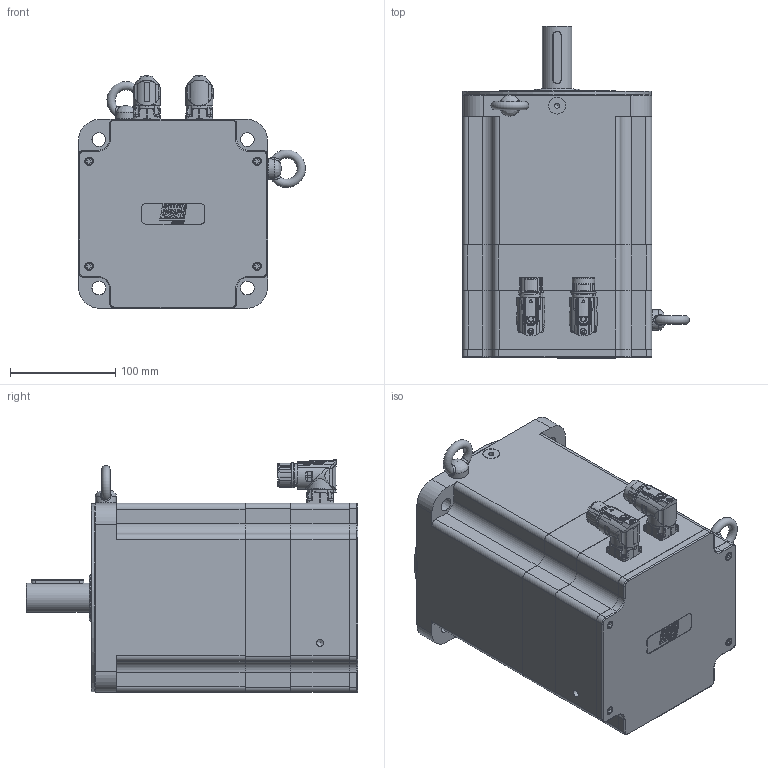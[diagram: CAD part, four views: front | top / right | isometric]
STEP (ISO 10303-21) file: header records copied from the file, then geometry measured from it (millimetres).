
FILE_DESCRIPTION(/* description */ ('Unknown'),/* implementation_level */ '2;1');
FILE_NAME(/* name */ 'TC4-180.7C.X X.X.3.XX.1.X.G2.00.00 Q0B808',/* time_stamp */ '2026-03-10T12:14:37+01:00',/* author */ ('Unknown'),/* organization */ ('Unknown'),/* preprocessor_version */ 'ST-DEVELOPER v19.4',/* originating_system */ 'Solid Edge',/* authorisation */ 'Unknown');
FILE_SCHEMA (('AUTOMOTIVE_DESIGN {1 0 10303 214 3 1 1}'));
Products named in the file (17): Q0B808 7C FRENO VUOTO; 005256003057; 003003199970; 003103040231; 003155002230; Coperchio campana TC4-180; 005113000610; 007117000456; 005119001104; 005911000185; 005911000479; 005321000010; 005008000953_oa_0; 005911000180; 003251040631; 007117000454; Corpo TC4-180 7C
Assembly tree (34 placements, depth 2):
  Q0B808 7C FRENO VUOTO
    005256003057
    003003199970
    003103040231
    003155002230
    Coperchio campana TC4-180
    005113000610
    007117000456
    005119001104
    005911000185  x8
    005911000479  x8
    005321000010  x2
    005008000953_oa_0
    005911000180  x4
    003251040631
    007117000454
    Corpo TC4-180 7C
Bounding box: 215.98 x 316 x 221.5 mm (x, y, z)
Volume: 3254586.3 mm3; surface area: 808702.5 mm2
Topology: 35 solids, 61 shells, 2602 faces, 6876 edges, 4478 vertices
Faces by surface type: plane 1071, cylinder 698, cone 333, bspline 290, torus 151, sphere 59
Full cylindrical faces by diameter (mm): 0.5 x1, 1 x21, 1.2 x17, 1.4 x4, 2 x4, 2.013 x16, 2.5 x8, 2.8 x4, 3 x12, 3.242 x12, 4 x5, 4.134 x16, 4.2 x8, 4.5 x10, 4.7 x8, 4.917 x8, 5 x8, 5.5 x10, 5.8 x1, 5.9 x2, 6.647 x14, 6.8 x1, 7 x6, 8 x8, 8.376 x2, 9 x4, 10 x3, 14 x4, 15.2 x1, 16 x1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
Entity records: 92425 total; most frequent: CARTESIAN_POINT 24114, ORIENTED_EDGE 10918, DIRECTION 10903, EDGE_CURVE 5667, AXIS2_PLACEMENT_3D 4217, VERTEX_POINT 3975, FACE_BOUND 3089, EDGE_LOOP 3055
